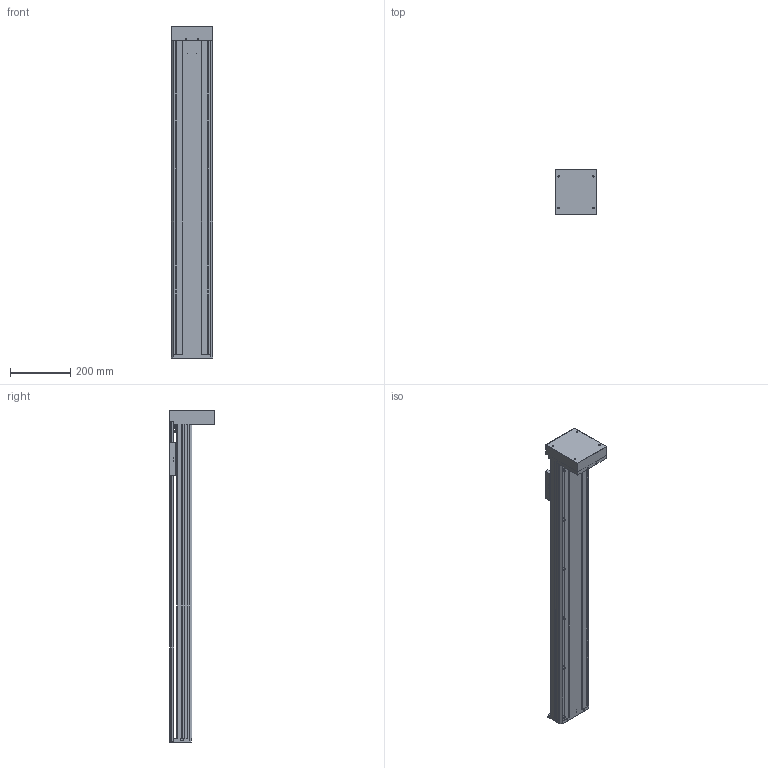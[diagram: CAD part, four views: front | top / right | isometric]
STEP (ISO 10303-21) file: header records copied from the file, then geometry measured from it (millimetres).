
FILE_DESCRIPTION(/* description */ (''),/* implementation_level */ '2;1');
FILE_NAME(/* name */ 'TKA136-FD-850_asm1.stp',/* time_stamp */ '2016-05-07T09:39:53+08:00',/* author */ (''),/* organization */ (''),/* preprocessor_version */ 'ST-DEVELOPER v15',/* originating_system */ 'SIEMENS PLM Software NX 8.5',/* authorisation */ '');
FILE_SCHEMA (('AUTOMOTIVE_DESIGN { 1 0 10303 214 3 1 1 1 }'));
Length unit declared in the file: millimetre
Products named in the file (3): 100-02; 100-01; TKA136-FD-850_asm1
Assembly tree (2 placements, depth 2):
  TKA136-FD-850_asm1
    100-01
    100-02
Bounding box: 136 x 152 x 1100 mm (x, y, z)
Volume: 3444985.2 mm3; surface area: 1337569 mm2
Topology: 2 solids, 13 shells, 944 faces, 2655 edges, 1711 vertices
Faces by surface type: cylinder 455, plane 424, cone 65
Full cylindrical faces by diameter (mm): 3 x2, 3.3 x13, 4 x4, 4.2 x8, 4.5 x14, 5 x12, 5.5 x26, 6.6 x16, 8 x12, 10 x9, 10.5 x12, 11 x4, 11.6 x1, 12 x9, 15 x3, 16 x5, 17 x1, 24 x5, 26 x1, 28 x1, 46 x1, 50 x2
Entity records: 31914 total; most frequent: CARTESIAN_POINT 8360, DIRECTION 4930, ORIENTED_EDGE 4658, EDGE_CURVE 2329, AXIS2_PLACEMENT_3D 1867, VERTEX_POINT 1616, EDGE_LOOP 1334, LINE 1196
